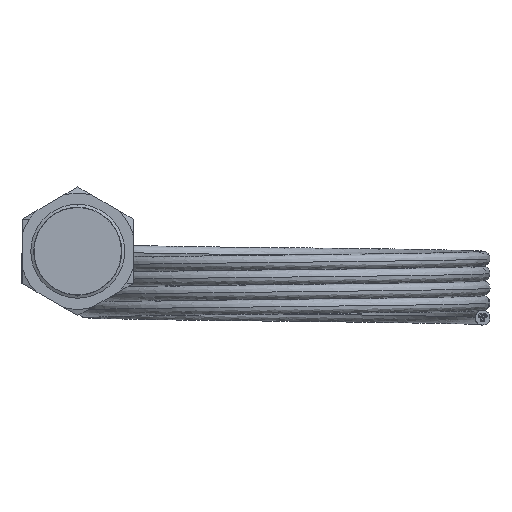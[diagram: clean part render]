
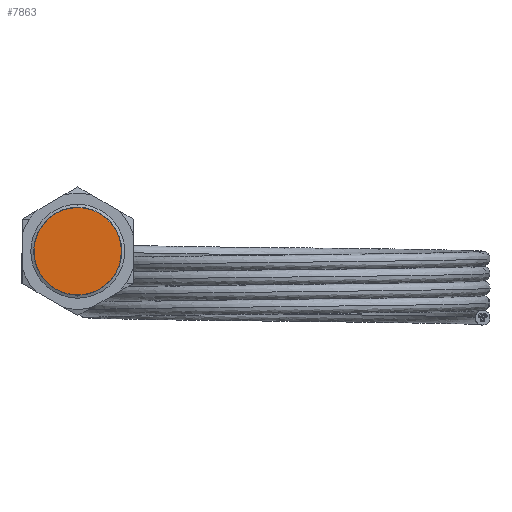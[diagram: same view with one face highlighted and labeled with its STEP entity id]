
A CAD part, left-side view. The second image highlights one B-rep face of the part: STEP entity #7863.
In plain terms, the highlighted planar face has unit normal (-1, 0, 0).
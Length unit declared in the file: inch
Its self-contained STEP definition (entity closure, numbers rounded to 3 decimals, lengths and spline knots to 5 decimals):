
#548 = CIRCLE ( 'NONE', #549, 0.55 ) ;
#549 = AXIS2_PLACEMENT_3D ( 'NONE', #550, #551, #552 ) ;
#550 = CARTESIAN_POINT ( 'NONE',  ( -0.118, 0., -0.591 ) ) ;
#551 = DIRECTION ( 'NONE',  ( 1., 0., 0. ) ) ;
#552 = DIRECTION ( 'NONE',  ( 0., 0., -1. ) ) ;
#1245 = VERTEX_POINT ( 'NONE', #17641 ) ;
#17641 = CARTESIAN_POINT ( 'NONE',  ( -0.118, 0., -0.041 ) ) ;
#1492 = VERTEX_POINT ( 'NONE', #18170 ) ;
#1732 = EDGE_CURVE ( 'NONE', #1492, #1245, #18276, .T. ) ;
#18170 = CARTESIAN_POINT ( 'NONE',  ( -0.118, 0., -1.141 ) ) ;
#18276 = CIRCLE ( 'NONE', #18277, 0.55 ) ;
#18277 = AXIS2_PLACEMENT_3D ( 'NONE', #18278, #18279, #18280 ) ;
#18278 = CARTESIAN_POINT ( 'NONE',  ( -0.118, 0., -0.591 ) ) ;
#18279 = DIRECTION ( 'NONE',  ( 1., 0., 0. ) ) ;
#18280 = DIRECTION ( 'NONE',  ( 0., 0., -1. ) ) ;
#2828 = FACE_OUTER_BOUND ( 'NONE', #7592, .T. ) ;
#2829 = PLANE ( 'NONE',  #2830 ) ;
#2830 = AXIS2_PLACEMENT_3D ( 'NONE', #2831, #2832, #2833 ) ;
#2831 = CARTESIAN_POINT ( 'NONE',  ( -0.118, 0., -0.591 ) ) ;
#2832 = DIRECTION ( 'NONE',  ( 1., 0., 0. ) ) ;
#2833 = DIRECTION ( 'NONE',  ( 0., 0., -1. ) ) ;
#6023 = EDGE_CURVE ( 'NONE', #1245, #1492, #548, .T. ) ;
#6427 = ORIENTED_EDGE ( 'NONE', *, *, #6023, .F. ) ;
#7008 = ORIENTED_EDGE ( 'NONE', *, *, #1732, .F. ) ;
#7592 = EDGE_LOOP ( 'NONE', ( #7008, #6427 ) ) ;
#7863 = ADVANCED_FACE ( 'NONE', ( #2828 ), #2829, .F. ) ;
